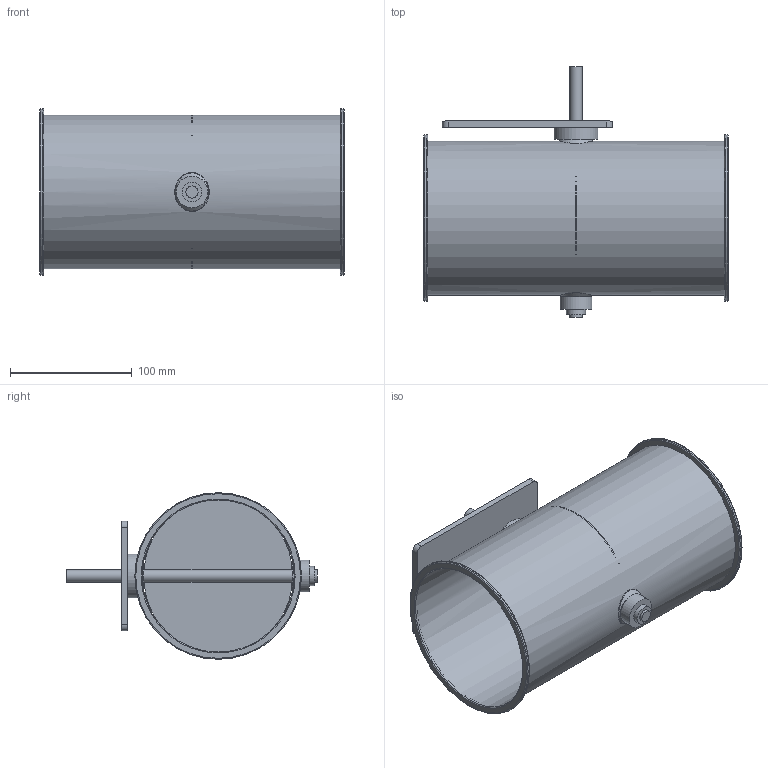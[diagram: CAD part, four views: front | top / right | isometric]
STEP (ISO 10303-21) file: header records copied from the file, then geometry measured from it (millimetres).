
FILE_DESCRIPTION(/* description */ (''),/* implementation_level */ '2;1');
FILE_NAME(/* name */ 'EA122-80B__125_L250_Belimo_Typ_NM.stp',/* time_stamp */ '2017-12-05T13:50:31+01:00',/* author */ (''),/* organization */ (''),/* preprocessor_version */ 'ST-DEVELOPER v11',/* originating_system */ 'SIEMENS UGS NX 6.0',/* authorisation */ '');
FILE_SCHEMA (('CONFIG_CONTROL_DESIGN'));
Length unit declared in the file: millimetre
Products named in the file (1): gars1E3Bhiiz
Bounding box: 250 x 206 x 137 mm (x, y, z)
Volume: 199554.3 mm3; surface area: 274244 mm2
Topology: 8 solids, 8 shells, 76 faces, 161 edges, 109 vertices
Faces by surface type: plane 30, cylinder 28, torus 10, cone 4, bspline 4
Full cylindrical faces by diameter (mm): 4.1 x4, 10 x3, 15 x3, 15.85 x2, 16 x2, 24 x2, 26 x1, 36 x1, 125 x1, 126.6 x1, 137 x2
Entity records: 2424 total; most frequent: CARTESIAN_POINT 901, DIRECTION 310, ORIENTED_EDGE 204, EDGE_LOOP 148, AXIS2_PLACEMENT_3D 143, FACE_BOUND 134, EDGE_CURVE 102, VERTEX_POINT 90
